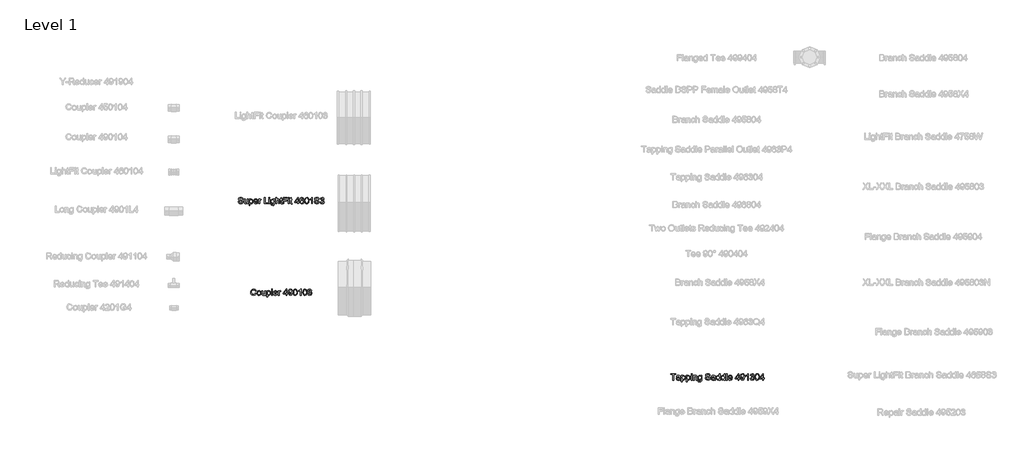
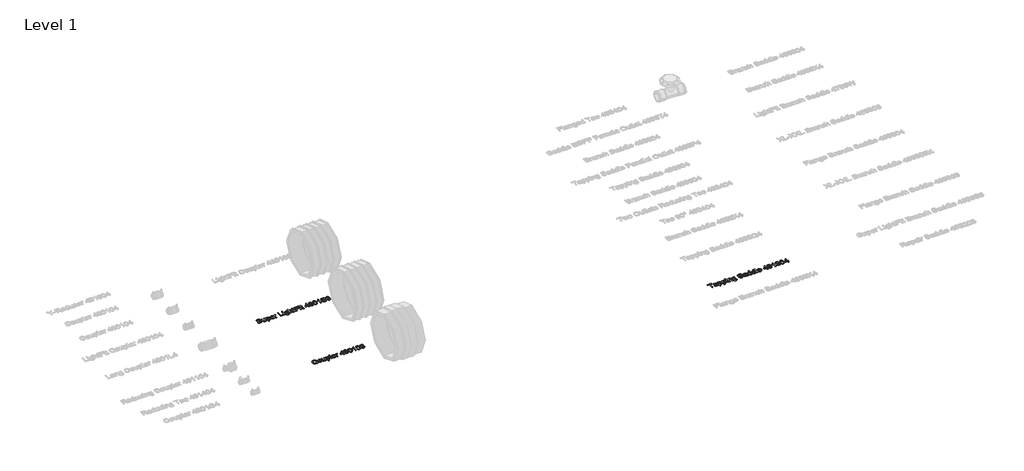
# One storey, part 3 of 41: 3 proxies.
"""IFC4 building model written with IfcOpenShell, lengths in millimetres."""

from ifc_helpers import new_model, si_unit, origin, origin_with_axes, place, context, project, spatial, polyline, outline, extrude, element, save

model = new_model("IFC4")

# Units and contexts
model_context = context("Model", 3, world=origin())
ifc_project = project(units=[si_unit("LENGTHUNIT", "METRE", prefix="MILLI")], contexts=[model_context])

# Site, building, storey
site = spatial("IfcSite", under=ifc_project)
building = spatial("IfcBuilding", under=site)
storey = spatial("IfcBuildingStorey", under=building, Name="Level 1", Elevation=0.0)

# Proxies
placement = place(None, origin())
element("IfcBuildingElementProxy", 1, Name="100 mm Arial", ObjectType="100 mm Arial", at=placement, inside=storey, context=model_context, shape_type="SweptSolid", body=[
    extrude(outline(polyline([(2732.5048401, 2755.3643675), (2739.8894555, 2753.4605213), (2731.1346478, 2738.5686944), (2715.6731093, 2733.4412905), (2700.3053209, 2737.3210982), (2691.2908978, 2748.5566752), (2688.1971478, 2764.3499444), (2691.6947439, 2780.402829), (2701.6394555, 2790.809079), (2715.8317632, 2794.3643675), (2730.6226286, 2789.7634059), (2738.9663786, 2776.8114828), (2731.5817632, 2775.0518675), (2725.5240709, 2784.1311944), (2715.5433016, 2786.9797521), (2703.990417, 2783.8210982), (2697.4639747, 2775.340329), (2695.5817632, 2764.3643675), (2697.8101286, 2751.6432136), (2704.7476286, 2743.5158098), (2714.9375324, 2740.8259059), (2726.2380132, 2744.4893675), (2732.5048401, 2755.3643675)])), origin_with_axes(), (0.0, 0.0, 1.0), 5.0),
    extrude(outline(polyline([(2747.2740709, 2756.0566752), (2748.8714266, 2766.5170117), (2753.6634939, 2773.8691752), (2766.6731093, 2778.6720598), (2774.4309218, 2777.2099203), (2780.6274363, 2772.8235021), (2784.6893353, 2765.8589588), (2786.0433016, 2756.6624444), (2783.6490709, 2743.5230213), (2776.6755132, 2736.0879252), (2766.6731093, 2733.4412905), (2758.8215468, 2734.8980213), (2752.6322439, 2739.2682136), (2748.6136141, 2746.3787905), (2747.2740709, 2756.0566752)]), holes=[polyline([(2754.6586863, 2756.0710982), (2758.0769555, 2744.6263867), (2766.6731093, 2740.8259059), (2775.240417, 2744.6480213), (2778.6586863, 2756.3018675), (2775.2187824, 2767.4869636), (2766.6731093, 2771.2874444), (2758.0769555, 2767.5013867), (2754.6586863, 2756.0710982)])]), origin_with_axes(), (0.0, 0.0, 1.0), 5.0),
    extrude(outline(polyline([(2822.0433016, 2734.3643675), (2822.0433016, 2741.8210982), (2816.2596478, 2735.5362425), (2808.7163786, 2733.4412905), (2801.771667, 2734.9124444), (2796.9832055, 2738.6047521), (2794.7836863, 2744.0422521), (2794.3509939, 2750.9076367), (2794.3509939, 2777.7489828), (2801.7356093, 2777.7489828), (2801.7356093, 2754.3835982), (2802.1827247, 2746.8547521), (2805.1033978, 2742.434079), (2810.6058016, 2740.8259059), (2816.771667, 2742.4701367), (2820.8461863, 2746.9485021), (2822.0433016, 2755.1768675), (2822.0433016, 2777.7489828), (2829.427917, 2777.7489828), (2829.427917, 2734.3643675), (2822.0433016, 2734.3643675)])), origin_with_axes(), (0.0, 0.0, 1.0), 5.0),
    extrude(outline(polyline([(2839.5817632, 2717.7489828), (2839.5817632, 2777.7489828), (2846.9663786, 2777.7489828), (2846.9663786, 2770.5085982), (2852.0721478, 2776.6311944), (2858.9663786, 2778.6720598), (2868.3269555, 2775.8162905), (2874.4423401, 2767.7682136), (2876.5048401, 2756.3884059), (2874.1755132, 2744.4244636), (2867.4110901, 2736.2754252), (2858.0721478, 2733.4412905), (2851.646667, 2735.3379252), (2846.9663786, 2740.1335982), (2846.9663786, 2717.7489828), (2839.5817632, 2717.7489828)]), holes=[polyline([(2846.9663786, 2755.7105213), (2850.1610901, 2744.4605213), (2857.9134939, 2740.8259059), (2865.8245516, 2744.590329), (2869.1202247, 2756.2585982), (2865.9038786, 2767.5374444), (2858.2163786, 2771.2874444), (2850.3774363, 2767.2994636), (2846.9663786, 2755.7105213)])]), origin_with_axes(), (0.0, 0.0, 1.0), 5.0),
    extrude(outline(polyline([(2884.8125324, 2734.3643675), (2884.8125324, 2793.4412905), (2892.1971478, 2793.4412905), (2892.1971478, 2734.3643675), (2884.8125324, 2734.3643675)])), origin_with_axes(), (0.0, 0.0, 1.0), 5.0),
    extrude(outline(polyline([(2933.6490709, 2747.2874444), (2940.8894555, 2746.3643675), (2934.1178209, 2736.8307136), (2921.5048401, 2733.4412905), (2912.8401766, 2734.90343), (2906.1731093, 2739.2898482), (2901.9219074, 2746.3156896), (2900.5048401, 2755.6960982), (2901.9363305, 2765.3920117), (2906.2308016, 2772.6432136), (2912.8077247, 2777.1648482), (2921.0865709, 2778.6720598), (2929.1076045, 2777.168454), (2935.5168593, 2772.6576367), (2939.7193834, 2765.4208578), (2941.1202247, 2755.7393675), (2941.0769555, 2753.7489828), (2907.8894555, 2753.7489828), (2912.1370516, 2744.1576367), (2921.6490709, 2740.8259059), (2928.8894555, 2742.3691752), (2933.6490709, 2747.2874444)]), holes=[polyline([(2907.8894555, 2761.1335982), (2933.7356093, 2761.1335982), (2930.7788786, 2767.8259059), (2921.0577247, 2771.2874444), (2911.9639747, 2768.5254252), (2907.8894555, 2761.1335982)])]), origin_with_axes(), (0.0, 0.0, 1.0), 5.0),
    extrude(outline(polyline([(2948.5048401, 2734.3643675), (2948.5048401, 2777.7489828), (2954.9663786, 2777.7489828), (2954.9663786, 2771.3307136), (2959.552917, 2777.2441752), (2964.1683016, 2778.6720598), (2971.5817632, 2776.3932136), (2969.115417, 2769.7730213), (2963.9231093, 2771.2874444), (2959.7476286, 2769.8307136), (2957.0865709, 2765.7922521), (2955.8894555, 2757.1672521), (2955.8894555, 2734.3643675), (2948.5048401, 2734.3643675)])), origin_with_axes(), (0.0, 0.0, 1.0), 5.0),
    extrude(outline(polyline([(3021.427917, 2734.3643675), (3021.427917, 2748.2105213), (2994.6586863, 2748.2105213), (2994.6586863, 2755.5951367), (3023.2740709, 2792.5182136), (3028.8125324, 2792.5182136), (3028.8125324, 2755.5951367), (3036.1971478, 2755.5951367), (3036.1971478, 2748.2105213), (3028.8125324, 2748.2105213), (3028.8125324, 2734.3643675), (3021.427917, 2734.3643675)]), holes=[polyline([(3021.427917, 2755.5951367), (3021.427917, 2778.4124444), (3003.7452247, 2755.5951367), (3021.427917, 2755.5951367)])]), origin_with_axes(), (0.0, 0.0, 1.0), 5.0),
    extrude(outline(polyline([(3043.5817632, 2749.1335982), (3050.9663786, 2750.0566752), (3054.2836863, 2743.0110021), (3060.5721478, 2740.8259059), (3066.5505132, 2742.2321559), (3070.6033978, 2745.9893675), (3073.0192632, 2752.4076367), (3074.0865709, 2760.9749444), (3068.1370516, 2756.8210982), (3060.0384939, 2754.6720598), (3047.6995516, 2759.9220598), (3042.6586863, 2773.7537905), (3047.9447439, 2788.0326367), (3061.1923401, 2793.4412905), (3071.7139747, 2790.3547521), (3078.9543593, 2781.5566752), (3081.427917, 2765.027829), (3078.9615709, 2747.0927328), (3071.6274363, 2736.9316752), (3060.2259939, 2733.4412905), (3048.8750324, 2737.559079), (3043.5817632, 2749.1335982)]), holes=[polyline([(3074.0433016, 2773.9268675), (3070.8558016, 2782.7826367), (3062.3894555, 2786.0566752), (3053.5048401, 2782.5302328), (3050.0433016, 2773.3932136), (3053.3173401, 2765.2081175), (3062.1875324, 2762.0566752), (3070.7043593, 2765.2081175), (3074.0433016, 2773.9268675)])]), origin_with_axes(), (0.0, 0.0, 1.0), 5.0),
    extrude(outline(polyline([(3087.8894555, 2763.4268675), (3090.0601286, 2780.4244636), (3096.5072439, 2790.2249444), (3107.2740709, 2793.4412905), (3115.8990709, 2791.5374444), (3121.8558016, 2786.0494636), (3125.3173401, 2777.309079), (3126.6586863, 2763.4268675), (3124.5096478, 2746.5013867), (3118.084167, 2736.6792713), (3107.2740709, 2733.4412905), (3099.6009939, 2734.8475405), (3093.7740709, 2739.0662905), (3089.3606093, 2749.0578771), (3087.8894555, 2763.4268675)]), holes=[polyline([(3095.2740709, 2763.4412905), (3098.7356093, 2745.1023482), (3107.2740709, 2740.8259059), (3115.8125324, 2745.1167713), (3119.2740709, 2763.4412905), (3115.927917, 2781.5710982), (3107.1875324, 2786.0566752), (3098.8509939, 2782.1047521), (3095.2740709, 2763.4412905)])]), origin_with_axes(), (0.0, 0.0, 1.0), 5.0),
    extrude(outline(polyline([(3160.8125324, 2734.3643675), (3153.427917, 2734.3643675), (3153.427917, 2780.402829), (3146.4327247, 2775.4196559), (3138.6586863, 2771.6912905), (3138.6586863, 2778.6720598), (3149.4832055, 2785.5807136), (3156.052917, 2793.4412905), (3160.8125324, 2793.4412905), (3160.8125324, 2734.3643675)])), origin_with_axes(), (0.0, 0.0, 1.0), 5.0),
    extrude(outline(polyline([(3178.3509939, 2763.4268675), (3180.521667, 2780.4244636), (3186.9687824, 2790.2249444), (3197.7356093, 2793.4412905), (3206.3606093, 2791.5374444), (3212.3173401, 2786.0494636), (3215.7788786, 2777.309079), (3217.1202247, 2763.4268675), (3214.9711863, 2746.5013867), (3208.5457055, 2736.6792713), (3197.7356093, 2733.4412905), (3190.0625324, 2734.8475405), (3184.2356093, 2739.0662905), (3179.8221478, 2749.0578771), (3178.3509939, 2763.4268675)]), holes=[polyline([(3185.7356093, 2763.4412905), (3189.1971478, 2745.1023482), (3197.7356093, 2740.8259059), (3206.2740709, 2745.1167713), (3209.7356093, 2763.4412905), (3206.3894555, 2781.5710982), (3197.6490709, 2786.0566752), (3189.3125324, 2782.1047521), (3185.7356093, 2763.4412905)])]), origin_with_axes(), (0.0, 0.0, 1.0), 5.0),
    extrude(outline(polyline([(3223.5817632, 2750.0566752), (3230.9663786, 2750.9797521), (3235.0408978, 2743.2057136), (3242.6634939, 2740.8259059), (3251.6346478, 2744.0999444), (3254.9663786, 2752.2057136), (3251.6634939, 2759.8427328), (3243.2692632, 2762.8643675), (3238.0913786, 2762.0566752), (3238.9134939, 2769.4412905), (3248.4759939, 2771.4749444), (3252.1971478, 2777.9941752), (3249.5000324, 2783.7706175), (3242.5481093, 2786.0566752), (3235.5096478, 2783.7489828), (3231.8894555, 2776.8259059), (3224.5048401, 2777.7489828), (3230.5481093, 2789.3307136), (3242.2884939, 2793.4412905), (3251.1947439, 2791.4148482), (3257.4255132, 2785.8763867), (3259.5817632, 2778.4268675), (3257.5336863, 2771.6191752), (3251.4759939, 2766.7297521), (3259.5240709, 2761.6816752), (3262.3509939, 2752.0759059), (3256.6971478, 2738.8643675), (3242.4038786, 2733.4412905), (3229.4519555, 2738.0710982), (3223.5817632, 2750.0566752)])), origin_with_axes(), (0.0, 0.0, 1.0), 5.0),
])
element("IfcBuildingElementProxy", 2, Name="100 mm Arial", ObjectType="100 mm Arial", at=placement, inside=storey, context=model_context, shape_type="SweptSolid", body=[
    extrude(outline(polyline([(2571.8894555, 3614.6720598), (2579.2740709, 3614.6720598), (2581.6538786, 3607.2802328), (2587.4663786, 3602.6071559), (2596.3221478, 3600.8259059), (2604.0384939, 3602.1744636), (2609.021667, 3605.8811944), (2610.6586863, 3610.8355213), (2609.4327247, 3615.4436944), (2604.4134939, 3618.7970598), (2593.6610901, 3621.6167713), (2582.0865709, 3625.2585982), (2575.8053209, 3630.7537905), (2573.7356093, 3638.0951367), (2576.2957055, 3646.4533098), (2583.7740709, 3652.3523482), (2594.7211863, 3654.3643675), (2606.4038786, 3652.2585982), (2614.1923401, 3646.0710982), (2617.1202247, 3636.8259059), (2609.7356093, 3636.8259059), (2605.552917, 3644.4124444), (2595.0096478, 3646.9797521), (2584.4375324, 3644.4412905), (2581.1202247, 3638.3114828), (2583.4711863, 3633.1912905), (2595.5288786, 3629.0662905), (2608.5961863, 3625.3595598), (2615.7428209, 3619.3739828), (2618.0433016, 3611.0230213), (2615.396667, 3602.1888867), (2607.7812824, 3595.7417713), (2596.6106093, 3593.4412905), (2583.4207055, 3595.9220598), (2575.0769555, 3603.3932136), (2571.8894555, 3614.6720598)])), origin_with_axes(), (0.0, 0.0, 1.0), 5.0),
    extrude(outline(polyline([(2655.8894555, 3594.3643675), (2655.8894555, 3601.8210982), (2650.1058016, 3595.5362425), (2642.5625324, 3593.4412905), (2635.6178209, 3594.9124444), (2630.8293593, 3598.6047521), (2628.6298401, 3604.0422521), (2628.1971478, 3610.9076367), (2628.1971478, 3637.7489828), (2635.5817632, 3637.7489828), (2635.5817632, 3614.3835982), (2636.0288786, 3606.8547521), (2638.9495516, 3602.434079), (2644.4519555, 3600.8259059), (2650.6178209, 3602.4701367), (2654.6923401, 3606.9485021), (2655.8894555, 3615.1768675), (2655.8894555, 3637.7489828), (2663.2740709, 3637.7489828), (2663.2740709, 3594.3643675), (2655.8894555, 3594.3643675)])), origin_with_axes(), (0.0, 0.0, 1.0), 5.0),
    extrude(outline(polyline([(2673.427917, 3577.7489828), (2673.427917, 3637.7489828), (2680.8125324, 3637.7489828), (2680.8125324, 3630.5085982), (2685.9183016, 3636.6311944), (2692.8125324, 3638.6720598), (2702.1731093, 3635.8162905), (2708.2884939, 3627.7682136), (2710.3509939, 3616.3884059), (2708.021667, 3604.4244636), (2701.2572439, 3596.2754252), (2691.9183016, 3593.4412905), (2685.4928209, 3595.3379252), (2680.8125324, 3600.1335982), (2680.8125324, 3577.7489828), (2673.427917, 3577.7489828)]), holes=[polyline([(2680.8125324, 3615.7105213), (2684.0072439, 3604.4605213), (2691.7596478, 3600.8259059), (2699.6707055, 3604.590329), (2702.9663786, 3616.2585982), (2699.7500324, 3627.5374444), (2692.0625324, 3631.2874444), (2684.2235901, 3627.2994636), (2680.8125324, 3615.7105213)])]), origin_with_axes(), (0.0, 0.0, 1.0), 5.0),
    extrude(outline(polyline([(2749.0336863, 3607.2874444), (2756.2740709, 3606.3643675), (2749.5024363, 3596.8307136), (2736.8894555, 3593.4412905), (2728.224792, 3594.90343), (2721.5577247, 3599.2898482), (2717.3065228, 3606.3156896), (2715.8894555, 3615.6960982), (2717.3209459, 3625.3920117), (2721.615417, 3632.6432136), (2728.1923401, 3637.1648482), (2736.4711863, 3638.6720598), (2744.4922199, 3637.168454), (2750.9014747, 3632.6576367), (2755.1039988, 3625.4208578), (2756.5048401, 3615.7393675), (2756.4615709, 3613.7489828), (2723.2740709, 3613.7489828), (2727.521667, 3604.1576367), (2737.0336863, 3600.8259059), (2744.2740709, 3602.3691752), (2749.0336863, 3607.2874444)]), holes=[polyline([(2723.2740709, 3621.1335982), (2749.1202247, 3621.1335982), (2746.1634939, 3627.8259059), (2736.4423401, 3631.2874444), (2727.3485901, 3628.5254252), (2723.2740709, 3621.1335982)])]), origin_with_axes(), (0.0, 0.0, 1.0), 5.0),
    extrude(outline(polyline([(2763.8894555, 3594.3643675), (2763.8894555, 3637.7489828), (2770.3509939, 3637.7489828), (2770.3509939, 3631.3307136), (2774.9375324, 3637.2441752), (2779.552917, 3638.6720598), (2786.9663786, 3636.3932136), (2784.5000324, 3629.7730213), (2779.3077247, 3631.2874444), (2775.1322439, 3629.8307136), (2772.4711863, 3625.7922521), (2771.2740709, 3617.1672521), (2771.2740709, 3594.3643675), (2763.8894555, 3594.3643675)])), origin_with_axes(), (0.0, 0.0, 1.0), 5.0),
    extrude(outline(polyline([(2815.5817632, 3594.3643675), (2815.5817632, 3653.4412905), (2822.9663786, 3653.4412905), (2822.9663786, 3601.7489828), (2852.5048401, 3601.7489828), (2852.5048401, 3594.3643675), (2815.5817632, 3594.3643675)])), origin_with_axes(), (0.0, 0.0, 1.0), 5.0),
    extrude(outline(polyline([(2859.8894555, 3646.0566752), (2859.8894555, 3653.4412905), (2867.2740709, 3653.4412905), (2867.2740709, 3646.0566752), (2859.8894555, 3646.0566752)])), origin_with_axes(), (0.0, 0.0, 1.0), 5.0),
    extrude(outline(polyline([(2859.8894555, 3594.3643675), (2859.8894555, 3637.7489828), (2867.2740709, 3637.7489828), (2867.2740709, 3594.3643675), (2859.8894555, 3594.3643675)])), origin_with_axes(), (0.0, 0.0, 1.0), 5.0),
    extrude(outline(polyline([(2876.5048401, 3590.6720598), (2883.8894555, 3589.7489828), (2886.2836863, 3585.8547521), (2893.4519555, 3584.2105213), (2901.0096478, 3586.0710982), (2904.615417, 3591.2922521), (2905.1202247, 3599.902829), (2893.5817632, 3594.3643675), (2885.9681814, 3595.9761463), (2880.2908978, 3600.8114828), (2875.5817632, 3616.2730213), (2877.6947439, 3627.7177328), (2883.8101286, 3635.8162905), (2893.2211863, 3638.6720598), (2899.8089266, 3637.0566752), (2905.1202247, 3632.2105213), (2905.1202247, 3637.7489828), (2912.5048401, 3637.7489828), (2912.5048401, 3600.2922521), (2910.4856093, 3585.9485021), (2904.0889747, 3579.277829), (2893.3077247, 3576.8259059), (2881.0264747, 3580.2802328), (2876.5048401, 3590.6720598)]), holes=[polyline([(2882.9663786, 3616.777829), (2886.1178209, 3605.3475405), (2894.0288786, 3601.7489828), (2901.9255132, 3605.3259059), (2905.1202247, 3616.5614828), (2901.8317632, 3627.5735021), (2893.9134939, 3631.2874444), (2886.1610901, 3627.6311944), (2882.9663786, 3616.777829)])]), origin_with_axes(), (0.0, 0.0, 1.0), 5.0),
    extrude(outline(polyline([(2923.5817632, 3594.3643675), (2923.5817632, 3653.4412905), (2930.9663786, 3653.4412905), (2930.9663786, 3631.7201367), (2936.724792, 3636.934079), (2943.8173401, 3638.6720598), (2952.1106093, 3636.7754252), (2957.1442632, 3631.5326367), (2958.6586863, 3621.8259059), (2958.6586863, 3594.3643675), (2951.2740709, 3594.3643675), (2951.2740709, 3621.0614828), (2948.9231093, 3628.8499444), (2942.2596478, 3631.2874444), (2936.209167, 3629.6432136), (2932.1707055, 3625.1864828), (2930.9663786, 3617.4124444), (2930.9663786, 3594.3643675), (2923.5817632, 3594.3643675)])), origin_with_axes(), (0.0, 0.0, 1.0), 5.0),
    extrude(outline(polyline([(2984.5048401, 3600.5230213), (2985.427917, 3594.1480213), (2979.9038786, 3593.4412905), (2973.7163786, 3594.6672521), (2970.6298401, 3597.8835982), (2969.7356093, 3606.2634059), (2969.7356093, 3630.3643675), (2964.1971478, 3630.3643675), (2964.1971478, 3637.7489828), (2969.7356093, 3637.7489828), (2969.7356093, 3648.2922521), (2977.1202247, 3652.6335982), (2977.1202247, 3637.7489828), (2984.5048401, 3637.7489828), (2984.5048401, 3630.3643675), (2977.1202247, 3630.3643675), (2977.1202247, 3606.4797521), (2977.5096478, 3602.6720598), (2978.771667, 3601.3235021), (2981.2884939, 3600.8259059), (2984.5048401, 3600.5230213)])), origin_with_axes(), (0.0, 0.0, 1.0), 5.0),
    extrude(outline(polyline([(2992.8125324, 3594.3643675), (2992.8125324, 3653.4412905), (3032.5048401, 3653.4412905), (3032.5048401, 3646.0566752), (3000.1971478, 3646.0566752), (3000.1971478, 3628.5182136), (3027.8894555, 3628.5182136), (3027.8894555, 3621.1335982), (3000.1971478, 3621.1335982), (3000.1971478, 3594.3643675), (2992.8125324, 3594.3643675)])), origin_with_axes(), (0.0, 0.0, 1.0), 5.0),
    extrude(outline(polyline([(3041.7356093, 3646.0566752), (3041.7356093, 3653.4412905), (3049.1202247, 3653.4412905), (3049.1202247, 3646.0566752), (3041.7356093, 3646.0566752)])), origin_with_axes(), (0.0, 0.0, 1.0), 5.0),
    extrude(outline(polyline([(3041.7356093, 3594.3643675), (3041.7356093, 3637.7489828), (3049.1202247, 3637.7489828), (3049.1202247, 3594.3643675), (3041.7356093, 3594.3643675)])), origin_with_axes(), (0.0, 0.0, 1.0), 5.0),
    extrude(outline(polyline([(3075.8894555, 3600.5230213), (3076.8125324, 3594.1480213), (3071.2884939, 3593.4412905), (3065.1009939, 3594.6672521), (3062.0144555, 3597.8835982), (3061.1202247, 3606.2634059), (3061.1202247, 3630.3643675), (3055.5817632, 3630.3643675), (3055.5817632, 3637.7489828), (3061.1202247, 3637.7489828), (3061.1202247, 3648.2922521), (3068.5048401, 3652.6335982), (3068.5048401, 3637.7489828), (3075.8894555, 3637.7489828), (3075.8894555, 3630.3643675), (3068.5048401, 3630.3643675), (3068.5048401, 3606.4797521), (3068.8942632, 3602.6720598), (3070.1562824, 3601.3235021), (3072.6731093, 3600.8259059), (3075.8894555, 3600.5230213)])), origin_with_axes(), (0.0, 0.0, 1.0), 5.0),
    extrude(outline(polyline([(3128.5048401, 3594.3643675), (3128.5048401, 3608.2105213), (3101.7356093, 3608.2105213), (3101.7356093, 3615.5951367), (3130.3509939, 3652.5182136), (3135.8894555, 3652.5182136), (3135.8894555, 3615.5951367), (3143.2740709, 3615.5951367), (3143.2740709, 3608.2105213), (3135.8894555, 3608.2105213), (3135.8894555, 3594.3643675), (3128.5048401, 3594.3643675)]), holes=[polyline([(3128.5048401, 3615.5951367), (3128.5048401, 3638.4124444), (3110.8221478, 3615.5951367), (3128.5048401, 3615.5951367)])]), origin_with_axes(), (0.0, 0.0, 1.0), 5.0),
    extrude(outline(polyline([(3187.5817632, 3637.7489828), (3180.1971478, 3636.8259059), (3177.3990709, 3642.9845598), (3170.0000324, 3646.0566752), (3163.3365709, 3644.2682136), (3158.2957055, 3637.5542713), (3156.1971478, 3624.3932136), (3162.709167, 3630.2850405), (3170.7788786, 3632.2105213), (3183.3269555, 3626.9460982), (3188.5048401, 3613.3451367), (3186.0673401, 3603.1552328), (3179.3606093, 3595.9436944), (3169.6827247, 3593.4412905), (3161.3047199, 3595.0999444), (3154.6322439, 3600.0759059), (3150.2674603, 3608.8595598), (3148.8125324, 3621.9412905), (3150.427917, 3636.6492232), (3155.2740709, 3646.7057136), (3161.8906574, 3651.7573963), (3170.4615709, 3653.4412905), (3182.1298401, 3649.2730213), (3187.5817632, 3637.7489828)]), holes=[polyline([(3156.1971478, 3613.4605213), (3157.9062824, 3607.0638867), (3162.4495516, 3602.4196559), (3169.1058016, 3600.8259059), (3177.8101286, 3604.1287905), (3181.1202247, 3613.0999444), (3177.8533978, 3621.6888867), (3168.802917, 3624.8259059), (3159.8678209, 3621.6888867), (3156.1971478, 3613.4605213)])]), origin_with_axes(), (0.0, 0.0, 1.0), 5.0),
    extrude(outline(polyline([(3194.9663786, 3623.4268675), (3197.1370516, 3640.4244636), (3203.584167, 3650.2249444), (3214.3509939, 3653.4412905), (3222.9759939, 3651.5374444), (3228.9327247, 3646.0494636), (3232.3942632, 3637.309079), (3233.7356093, 3623.4268675), (3231.5865709, 3606.5013867), (3225.1610901, 3596.6792713), (3214.3509939, 3593.4412905), (3206.677917, 3594.8475405), (3200.8509939, 3599.0662905), (3196.4375324, 3609.0578771), (3194.9663786, 3623.4268675)]), holes=[polyline([(3202.3509939, 3623.4412905), (3205.8125324, 3605.1023482), (3214.3509939, 3600.8259059), (3222.8894555, 3605.1167713), (3226.3509939, 3623.4412905), (3223.0048401, 3641.5710982), (3214.2644555, 3646.0566752), (3205.927917, 3642.1047521), (3202.3509939, 3623.4412905)])]), origin_with_axes(), (0.0, 0.0, 1.0), 5.0),
    extrude(outline(polyline([(3267.8894555, 3594.3643675), (3260.5048401, 3594.3643675), (3260.5048401, 3640.402829), (3253.5096478, 3635.4196559), (3245.7356093, 3631.6912905), (3245.7356093, 3638.6720598), (3256.5601286, 3645.5807136), (3263.1298401, 3653.4412905), (3267.8894555, 3653.4412905), (3267.8894555, 3594.3643675)])), origin_with_axes(), (0.0, 0.0, 1.0), 5.0),
    extrude(outline(polyline([(3285.427917, 3614.6720598), (3292.8125324, 3614.6720598), (3295.1923401, 3607.2802328), (3301.0048401, 3602.6071559), (3309.8606093, 3600.8259059), (3317.5769555, 3602.1744636), (3322.5601286, 3605.8811944), (3324.1971478, 3610.8355213), (3322.9711863, 3615.4436944), (3317.9519555, 3618.7970598), (3307.1995516, 3621.6167713), (3295.6250324, 3625.2585982), (3289.3437824, 3630.7537905), (3287.2740709, 3638.0951367), (3289.834167, 3646.4533098), (3297.3125324, 3652.3523482), (3308.2596478, 3654.3643675), (3319.9423401, 3652.2585982), (3327.7308016, 3646.0710982), (3330.6586863, 3636.8259059), (3323.2740709, 3636.8259059), (3319.0913786, 3644.4124444), (3308.5481093, 3646.9797521), (3297.9759939, 3644.4412905), (3294.6586863, 3638.3114828), (3297.0096478, 3633.1912905), (3309.0673401, 3629.0662905), (3322.1346478, 3625.3595598), (3329.2812824, 3619.3739828), (3331.5817632, 3611.0230213), (3328.9351286, 3602.1888867), (3321.3197439, 3595.7417713), (3310.1490709, 3593.4412905), (3296.959167, 3595.9220598), (3288.615417, 3603.3932136), (3285.427917, 3614.6720598)])), origin_with_axes(), (0.0, 0.0, 1.0), 5.0),
    extrude(outline(polyline([(3339.8894555, 3610.0566752), (3347.2740709, 3610.9797521), (3351.3485901, 3603.2057136), (3358.9711863, 3600.8259059), (3367.9423401, 3604.0999444), (3371.2740709, 3612.2057136), (3367.9711863, 3619.8427328), (3359.5769555, 3622.8643675), (3354.3990709, 3622.0566752), (3355.2211863, 3629.4412905), (3364.7836863, 3631.4749444), (3368.5048401, 3637.9941752), (3365.8077247, 3643.7706175), (3358.8558016, 3646.0566752), (3351.8173401, 3643.7489828), (3348.1971478, 3636.8259059), (3340.8125324, 3637.7489828), (3346.8558016, 3649.3307136), (3358.5961863, 3653.4412905), (3367.5024363, 3651.4148482), (3373.7332055, 3645.8763867), (3375.8894555, 3638.4268675), (3373.8413786, 3631.6191752), (3367.7836863, 3626.7297521), (3375.8317632, 3621.6816752), (3378.6586863, 3612.0759059), (3373.0048401, 3598.8643675), (3358.7115709, 3593.4412905), (3345.7596478, 3598.0710982), (3339.8894555, 3610.0566752)])), origin_with_axes(), (0.0, 0.0, 1.0), 5.0),
])
element("IfcBuildingElementProxy", 3, Name="100 mm Arial", ObjectType="100 mm Arial", at=placement, inside=storey, context=model_context, shape_type="SweptSolid", body=[
    extrude(outline(polyline([(6648.103276, 1937.5779735), (6648.103276, 1990.3175364), (6628.3259399, 1990.3175364), (6628.3259399, 1997.8517596), (6675.4148353, 1997.8517596), (6675.4148353, 1990.3175364), (6655.6374992, 1990.3175364), (6655.6374992, 1937.5779735), (6648.103276, 1937.5779735)])), origin_with_axes(), (0.0, 0.0, 1.0), 5.0),
    extrude(outline(polyline([(6711.2023958, 1943.228641), (6703.8962594, 1938.1224389), (6695.8249284, 1936.6361956), (6684.8841179, 1940.2120086), (6681.0655028, 1949.3501974), (6682.5076002, 1955.3098857), (6686.2967847, 1959.636178), (6691.5722125, 1962.108345), (6698.0910815, 1963.2414215), (6711.15825, 1965.8313108), (6711.2023958, 1967.5088527), (6709.1275413, 1973.0712284), (6700.798693, 1975.2490898), (6693.176178, 1973.7996348), (6689.5415039, 1968.6566445), (6682.0072807, 1969.5984224), (6685.2667151, 1976.9560623), (6691.8297299, 1981.2676393), (6701.7699014, 1982.7833131), (6710.9007326, 1981.4442226), (6716.0584381, 1978.0817812), (6718.3687371, 1972.9682215), (6718.7366191, 1966.3757761), (6718.7366191, 1957.0021429), (6719.1192163, 1943.9129015), (6720.6201749, 1937.5779735), (6713.0859516, 1937.5779735), (6711.2023958, 1943.228641)]), holes=[polyline([(6711.2023958, 1958.2970875), (6699.0475747, 1955.9867886), (6692.5654939, 1954.7654204), (6689.6297956, 1952.7788576), (6688.599726, 1949.8799475), (6690.8438062, 1945.803815), (6697.4288939, 1944.1704189), (6705.0514088, 1945.9730407), (6709.9663123, 1950.3361211), (6711.15825, 1956.1633719), (6711.2023958, 1958.2970875)])]), origin_with_axes(), (0.0, 0.0, 1.0), 5.0),
    extrude(outline(polyline([(6729.096176, 1920.6259712), (6729.096176, 1981.8415352), (6736.6303993, 1981.8415352), (6736.6303993, 1974.4544647), (6741.8396084, 1980.701101), (6748.8735121, 1982.7833131), (6758.4237287, 1979.8696877), (6764.6630073, 1971.6585616), (6766.7672923, 1960.0482058), (6764.3907747, 1947.8418812), (6757.4893084, 1939.5277481), (6747.9611648, 1936.6361956), (6741.4055076, 1938.5712549), (6736.6303993, 1943.4640855), (6736.6303993, 1920.6259712), (6729.096176, 1920.6259712)]), holes=[polyline([(6736.6303993, 1959.3565877), (6739.8898338, 1947.8786694), (6747.7992967, 1944.1704189), (6755.8706277, 1948.0111069), (6759.2330691, 1959.9157683), (6755.9515617, 1971.4231171), (6748.1083176, 1975.2490898), (6740.110563, 1971.180315), (6736.6303993, 1959.3565877)])]), origin_with_axes(), (0.0, 0.0, 1.0), 5.0),
    extrude(outline(polyline([(6775.2432935, 1920.6259712), (6775.2432935, 1981.8415352), (6782.7775168, 1981.8415352), (6782.7775168, 1974.4544647), (6787.9867258, 1980.701101), (6795.0206296, 1982.7833131), (6804.5708462, 1979.8696877), (6810.8101248, 1971.6585616), (6812.9144098, 1960.0482058), (6810.5378921, 1947.8418812), (6803.6364259, 1939.5277481), (6794.1082822, 1936.6361956), (6787.5526251, 1938.5712549), (6782.7775168, 1943.4640855), (6782.7775168, 1920.6259712), (6775.2432935, 1920.6259712)]), holes=[polyline([(6782.7775168, 1959.3565877), (6786.0369513, 1947.8786694), (6793.9464142, 1944.1704189), (6802.0177451, 1948.0111069), (6805.3801866, 1959.9157683), (6802.0986792, 1971.4231171), (6794.255435, 1975.2490898), (6786.2576805, 1971.180315), (6782.7775168, 1959.3565877)])]), origin_with_axes(), (0.0, 0.0, 1.0), 5.0),
    extrude(outline(polyline([(6821.390411, 1937.5779735), (6821.390411, 1981.8415352), (6828.9246343, 1981.8415352), (6828.9246343, 1937.5779735), (6821.390411, 1937.5779735)])), origin_with_axes(), (0.0, 0.0, 1.0), 5.0),
    extrude(outline(polyline([(6821.390411, 1990.3175364), (6821.390411, 1997.8517596), (6828.9246343, 1997.8517596), (6828.9246343, 1990.3175364), (6821.390411, 1990.3175364)])), origin_with_axes(), (0.0, 0.0, 1.0), 5.0),
    extrude(outline(polyline([(6840.2259691, 1937.5779735), (6840.2259691, 1981.8415352), (6847.7601924, 1981.8415352), (6847.7601924, 1975.6611177), (6853.5212245, 1981.0027643), (6861.3865415, 1982.7833131), (6868.5013793, 1981.3485733), (6873.3574216, 1977.5814617), (6875.6162171, 1972.0411588), (6876.0135296, 1964.7570953), (6876.0135296, 1937.5779735), (6868.4793064, 1937.5779735), (6868.4793064, 1963.741741), (6867.6111049, 1970.4077628), (6864.542969, 1973.9320723), (6859.3705482, 1975.2490898), (6851.1962102, 1972.2913186), (6847.7601924, 1961.0635601), (6847.7601924, 1937.5779735), (6840.2259691, 1937.5779735)])), origin_with_axes(), (0.0, 0.0, 1.0), 5.0),
    extrude(outline(polyline([(6884.4895308, 1933.8108619), (6892.0237541, 1932.869084), (6894.4664905, 1928.8959585), (6901.7799846, 1927.2184166), (6909.4907912, 1929.1166877), (6913.1696111, 1934.4436189), (6913.6846459, 1943.228641), (6901.9124221, 1937.5779735), (6894.1445938, 1939.2224061), (6888.3522918, 1944.1557036), (6883.5477529, 1959.9304836), (6885.7035414, 1971.6070581), (6891.94282, 1979.8696877), (6901.5445401, 1982.7833131), (6908.2657442, 1981.1352018), (6913.6846459, 1976.1908678), (6913.6846459, 1981.8415352), (6921.2188692, 1981.8415352), (6921.2188692, 1943.6259535), (6919.15873, 1928.9916078), (6912.6325034, 1922.1857909), (6901.6328318, 1919.6841933), (6889.102771, 1923.2085028), (6884.4895308, 1933.8108619)]), holes=[polyline([(6891.0819762, 1960.4455184), (6894.2972648, 1948.7836591), (6902.3685958, 1945.1121968), (6910.4252115, 1948.7615862), (6913.6846459, 1960.2247892), (6910.3295621, 1971.4599053), (6902.2508735, 1975.2490898), (6894.3414106, 1971.5187664), (6891.0819762, 1960.4455184)])]), origin_with_axes(), (0.0, 0.0, 1.0), 5.0),
    extrude(outline(polyline([(6954.181096, 1958.2970875), (6961.7153192, 1958.2970875), (6964.1433404, 1950.7555066), (6970.0735982, 1945.987756), (6979.10878, 1944.1704189), (6986.9814547, 1945.5462976), (6992.0655838, 1949.3281245), (6993.7357681, 1954.3828231), (6992.4849693, 1959.084355), (6987.3640519, 1962.5056575), (6976.3938108, 1965.3824947), (6964.5847988, 1969.0981029), (6958.1762944, 1974.7046245), (6956.0646518, 1982.1947019), (6958.676614, 1990.7222066), (6966.3064865, 1996.740756), (6977.4753839, 1998.7935375), (6989.3947606, 1996.6451067), (6997.3410116, 1990.3322516), (7000.3282134, 1980.8997573), (6992.7939902, 1980.8997573), (6988.526559, 1988.6399945), (6977.7696895, 1991.2593143), (6966.9833894, 1988.669425), (6963.598875, 1982.4154311), (6965.9974657, 1977.1915068), (6978.2994396, 1972.9829368), (6991.6314831, 1969.2011098), (6998.9229042, 1963.0942687), (7001.2699914, 1954.5741217), (6998.5697375, 1945.5610128), (6990.8000698, 1938.9832828), (6979.4030856, 1936.6361956), (6965.9459622, 1939.1672238), (6957.4331728, 1946.7897387), (6954.181096, 1958.2970875)])), origin_with_axes(), (0.0, 0.0, 1.0), 5.0),
    extrude(outline(polyline([(7039.8828856, 1943.228641), (7032.5767491, 1938.1224389), (7024.5054182, 1936.6361956), (7013.5646076, 1940.2120086), (7009.7459925, 1949.3501974), (7011.1880899, 1955.3098857), (7014.9772745, 1959.636178), (7020.2527023, 1962.108345), (7026.7715713, 1963.2414215), (7039.8387397, 1965.8313108), (7039.8828856, 1967.5088527), (7037.8080311, 1973.0712284), (7029.4791827, 1975.2490898), (7021.8566678, 1973.7996348), (7018.2219937, 1968.6566445), (7010.6877704, 1969.5984224), (7013.9472049, 1976.9560623), (7020.5102197, 1981.2676393), (7030.4503912, 1982.7833131), (7039.5812223, 1981.4442226), (7044.7389279, 1978.0817812), (7047.0492268, 1972.9682215), (7047.4171088, 1966.3757761), (7047.4171088, 1957.0021429), (7047.7997061, 1943.9129015), (7049.3006646, 1937.5779735), (7041.7664414, 1937.5779735), (7039.8828856, 1943.228641)]), holes=[polyline([(7039.8828856, 1958.2970875), (7027.7280644, 1955.9867886), (7021.2459837, 1954.7654204), (7018.3102854, 1952.7788576), (7017.2802158, 1949.8799475), (7019.524296, 1945.803815), (7026.1093837, 1944.1704189), (7033.7318986, 1945.9730407), (7038.6468021, 1950.3361211), (7039.8387397, 1956.1633719), (7039.8828856, 1958.2970875)])]), origin_with_axes(), (0.0, 0.0, 1.0), 5.0),
    extrude(outline(polyline([(7085.0882251, 1937.5779735), (7085.0882251, 1944.6854537), (7080.1034241, 1938.6485101), (7073.2129943, 1936.6361956), (7063.8835069, 1939.549821), (7057.2910616, 1947.6800131), (7054.9513321, 1959.6656085), (7057.1071206, 1971.6585616), (7063.5671284, 1979.9138335), (7073.1835638, 1982.7833131), (7080.1291758, 1980.7305316), (7085.0882251, 1975.3962426), (7085.0882251, 1997.8517596), (7092.6224484, 1997.8517596), (7092.6224484, 1937.5779735), (7085.0882251, 1937.5779735)]), holes=[polyline([(7062.4855554, 1959.6950391), (7065.884785, 1948.0331798), (7073.9046125, 1944.1704189), (7081.8287907, 1947.8565965), (7085.0882251, 1959.1211432), (7081.7699295, 1971.3495407), (7073.5955916, 1975.2490898), (7065.6640558, 1971.5040511), (7062.4855554, 1959.6950391)])]), origin_with_axes(), (0.0, 0.0, 1.0), 5.0),
    extrude(outline(polyline([(7131.2353426, 1937.5779735), (7131.2353426, 1944.6854537), (7126.2505416, 1938.6485101), (7119.3601118, 1936.6361956), (7110.0306244, 1939.549821), (7103.4381791, 1947.6800131), (7101.0984496, 1959.6656085), (7103.2542381, 1971.6585616), (7109.7142459, 1979.9138335), (7119.3306812, 1982.7833131), (7126.2762933, 1980.7305316), (7131.2353426, 1975.3962426), (7131.2353426, 1997.8517596), (7138.7695659, 1997.8517596), (7138.7695659, 1937.5779735), (7131.2353426, 1937.5779735)]), holes=[polyline([(7108.6326728, 1959.6950391), (7112.0319025, 1948.0331798), (7120.05173, 1944.1704189), (7127.9759081, 1947.8565965), (7131.2353426, 1959.1211432), (7127.917047, 1971.3495407), (7119.7427091, 1975.2490898), (7111.8111733, 1971.5040511), (7108.6326728, 1959.6950391)])]), origin_with_axes(), (0.0, 0.0, 1.0), 5.0),
    extrude(outline(polyline([(7150.0709008, 1937.5779735), (7150.0709008, 1997.8517596), (7157.605124, 1997.8517596), (7157.605124, 1937.5779735), (7150.0709008, 1937.5779735)])), origin_with_axes(), (0.0, 0.0, 1.0), 5.0),
    extrude(outline(polyline([(7199.8968382, 1950.7628642), (7207.2839087, 1949.8210863), (7200.3750848, 1940.0942864), (7187.5065726, 1936.6361956), (7178.6663682, 1938.1279571), (7171.8642302, 1942.6032416), (7167.5269014, 1949.7714223), (7166.0811252, 1959.3418724), (7167.5416167, 1969.2342192), (7171.9230913, 1976.6323261), (7178.6332589, 1981.2455664), (7187.0798295, 1982.7833131), (7195.2633645, 1981.2492452), (7201.8024669, 1976.6470414), (7206.0901316, 1969.2636498), (7207.5193531, 1959.3860182), (7207.4752073, 1957.3553096), (7173.6153485, 1957.3553096), (7177.9489984, 1947.5696485), (7187.6537254, 1944.1704189), (7195.0407959, 1945.7449538), (7199.8968382, 1950.7628642)]), holes=[polyline([(7173.6153485, 1964.8895329), (7199.9851299, 1964.8895329), (7196.9684975, 1971.7174227), (7187.0503989, 1975.2490898), (7177.772415, 1972.4311138), (7173.6153485, 1964.8895329)])]), origin_with_axes(), (0.0, 0.0, 1.0), 5.0),
    extrude(outline(polyline([(7261.2006939, 1937.5779735), (7261.2006939, 1951.7046422), (7233.8891345, 1951.7046422), (7233.8891345, 1959.2388654), (7263.0842497, 1996.9099817), (7268.7349171, 1996.9099817), (7268.7349171, 1959.2388654), (7276.2691404, 1959.2388654), (7276.2691404, 1951.7046422), (7268.7349171, 1951.7046422), (7268.7349171, 1937.5779735), (7261.2006939, 1937.5779735)]), holes=[polyline([(7261.2006939, 1959.2388654), (7261.2006939, 1982.5184381), (7243.1597608, 1959.2388654), (7261.2006939, 1959.2388654)])]), origin_with_axes(), (0.0, 0.0, 1.0), 5.0),
    extrude(outline(polyline([(7283.8033637, 1952.6464201), (7291.3375869, 1953.588198), (7294.7221013, 1946.3997838), (7301.1379633, 1944.1704189), (7307.2374467, 1945.6051587), (7311.3724404, 1949.4384891), (7313.8372497, 1955.9867886), (7314.9261804, 1964.7276648), (7308.8561275, 1960.4896642), (7300.5934979, 1958.2970875), (7288.004576, 1963.6534494), (7282.8615857, 1977.7654027), (7288.2547358, 1992.3335297), (7301.7707203, 1997.8517596), (7312.5055169, 1994.7026898), (7319.8925874, 1985.7263691), (7322.4162579, 1968.8626584), (7319.899945, 1950.564208), (7312.4172252, 1940.1972933), (7300.7847965, 1936.6361956), (7289.2038713, 1940.837408), (7283.8033637, 1952.6464201)]), holes=[polyline([(7314.8820346, 1977.9419861), (7311.6299578, 1986.9771679), (7302.9920885, 1990.3175364), (7293.9274762, 1986.7196505), (7290.395809, 1977.3975207), (7293.7361775, 1969.0465994), (7302.7860746, 1965.8313108), (7311.4754473, 1969.0465994), (7314.8820346, 1977.9419861)])]), origin_with_axes(), (0.0, 0.0, 1.0), 5.0),
    extrude(outline(polyline([(7357.2620404, 1937.5779735), (7349.7278172, 1937.5779735), (7349.7278172, 1984.5491467), (7342.5909065, 1979.4650175), (7334.6593707, 1975.6611177), (7334.6593707, 1982.7833131), (7345.7031882, 1989.8319321), (7352.4059981, 1997.8517596), (7357.2620404, 1997.8517596), (7357.2620404, 1937.5779735)])), origin_with_axes(), (0.0, 0.0, 1.0), 5.0),
    extrude(outline(polyline([(7375.1558207, 1953.588198), (7382.690044, 1954.5299759), (7386.8471105, 1946.5984401), (7394.6241359, 1944.1704189), (7403.7770399, 1947.5107874), (7407.1762696, 1955.7807747), (7403.8064705, 1963.5725153), (7395.2421776, 1966.6553664), (7389.9593922, 1965.8313108), (7390.7981631, 1973.365534), (7400.5543936, 1975.4403885), (7404.3509358, 1982.091695), (7401.5991785, 1987.9851645), (7394.5064136, 1990.3175364), (7387.3253571, 1987.9630916), (7383.6318219, 1980.8997573), (7376.0975986, 1981.8415352), (7382.2633008, 1993.6579049), (7394.2415386, 1997.8517596), (7403.3282239, 1995.7842628), (7409.6852248, 1990.1335954), (7411.8851591, 1982.5331534), (7409.7955894, 1975.5875413), (7403.6151718, 1970.5990614), (7411.826298, 1965.4487135), (7414.7104928, 1955.6483371), (7408.9421031, 1942.1691408), (7394.3592608, 1936.6361956), (7381.1449396, 1941.3598005), (7375.1558207, 1953.588198)])), origin_with_axes(), (0.0, 0.0, 1.0), 5.0),
    extrude(outline(polyline([(7421.3029382, 1967.2292624), (7423.5175878, 1984.5712196), (7430.0953179, 1994.5702522), (7441.0802742, 1997.8517596), (7449.8800116, 1995.9093427), (7455.9574221, 1990.3101787), (7459.4890893, 1981.3927192), (7460.8576103, 1967.2292624), (7458.6650336, 1949.9608815), (7452.1093764, 1939.9397759), (7441.0802742, 1936.6361956), (7433.2517454, 1938.0709354), (7427.3067723, 1942.3751548), (7422.8038967, 1952.5691648), (7421.3029382, 1967.2292624)]), holes=[polyline([(7428.8371614, 1967.2439776), (7432.3688286, 1948.5334994), (7441.0802742, 1944.1704189), (7449.7917199, 1948.5482146), (7453.323387, 1967.2439776), (7449.9094421, 1985.7410843), (7440.9919825, 1990.3175364), (7432.4865508, 1986.2855497), (7428.8371614, 1967.2439776)])]), origin_with_axes(), (0.0, 0.0, 1.0), 5.0),
    extrude(outline(polyline([(7491.9362812, 1937.5779735), (7491.9362812, 1951.7046422), (7464.6247219, 1951.7046422), (7464.6247219, 1959.2388654), (7493.8198371, 1996.9099817), (7499.4705045, 1996.9099817), (7499.4705045, 1959.2388654), (7507.0047278, 1959.2388654), (7507.0047278, 1951.7046422), (7499.4705045, 1951.7046422), (7499.4705045, 1937.5779735), (7491.9362812, 1937.5779735)]), holes=[polyline([(7491.9362812, 1959.2388654), (7491.9362812, 1982.5184381), (7473.8953482, 1959.2388654), (7491.9362812, 1959.2388654)])]), origin_with_axes(), (0.0, 0.0, 1.0), 5.0),
])

save(model, "model.ifc")
